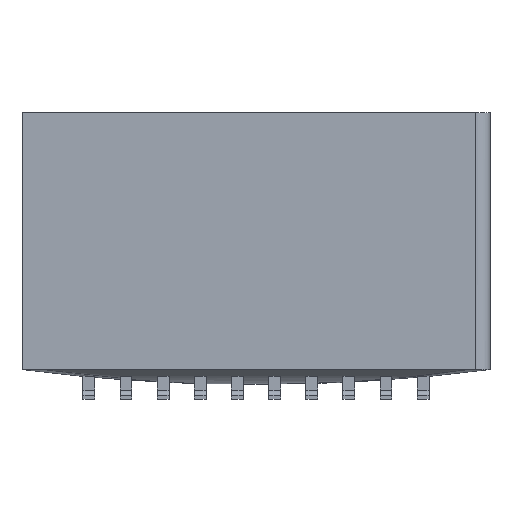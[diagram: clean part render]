
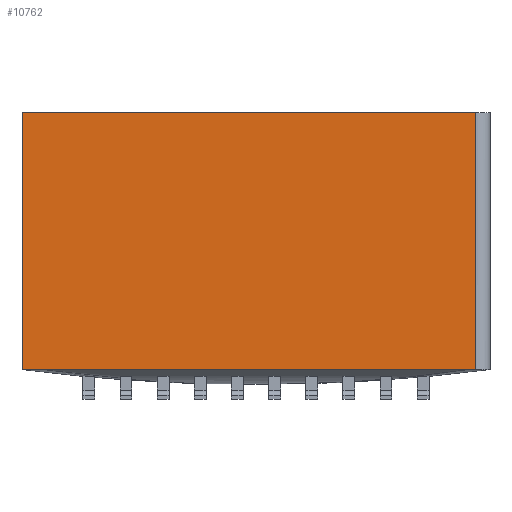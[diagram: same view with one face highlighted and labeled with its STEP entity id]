
A CAD part, front view. The second image highlights one B-rep face of the part: STEP entity #10762.
In plain terms, the highlighted planar face has unit normal (0, -1, 0).
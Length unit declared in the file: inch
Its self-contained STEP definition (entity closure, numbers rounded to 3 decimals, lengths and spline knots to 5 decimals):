
#161 = CARTESIAN_POINT ( 'NONE',  ( -0.4575, -0.035, 0.0865 ) ) ;
#716 = LINE ( 'NONE', #6966, #14805 ) ;
#1161 = CARTESIAN_POINT ( 'NONE',  ( -0.1575, -0.035, 0.0865 ) ) ;
#1295 = ORIENTED_EDGE ( 'NONE', *, *, #6921, .T. ) ;
#2075 = FACE_OUTER_BOUND ( 'NONE', #5576, .T. ) ;
#2550 = EDGE_CURVE ( 'NONE', #9041, #9564, #2553, .T. ) ;
#2553 = LINE ( 'NONE', #2871, #15827 ) ;
#2588 = ORIENTED_EDGE ( 'NONE', *, *, #4543, .F. ) ;
#2871 = CARTESIAN_POINT ( 'NONE',  ( -0.4575, -0.035, -0.0865 ) ) ;
#2982 = CARTESIAN_POINT ( 'NONE',  ( -0.1575, -0.035, -0.0865 ) ) ;
#3388 = DIRECTION ( 'NONE',  ( 0., -1., 0. ) ) ;
#3405 = DIRECTION ( 'NONE',  ( 0., 0., 1. ) ) ;
#3688 = CARTESIAN_POINT ( 'NONE',  ( 0.1475, -0.035, 0.0865 ) ) ;
#4543 = EDGE_CURVE ( 'NONE', #4563, #15704, #10114, .T. ) ;
#4563 = VERTEX_POINT ( 'NONE', #1161 ) ;
#5576 = EDGE_LOOP ( 'NONE', ( #11562, #15029, #1295, #2588 ) ) ;
#5837 = CARTESIAN_POINT ( 'NONE',  ( 0.1475, -0.035, -0.0865 ) ) ;
#5994 = AXIS2_PLACEMENT_3D ( 'NONE', #16604, #3388, #12652 ) ;
#6019 = PLANE ( 'NONE',  #5994 ) ;
#6921 = EDGE_CURVE ( 'NONE', #9041, #15704, #8598, .T. ) ;
#6966 = CARTESIAN_POINT ( 'NONE',  ( -0.1575, -0.035, -0.0865 ) ) ;
#8598 = LINE ( 'NONE', #11337, #11683 ) ;
#9041 = VERTEX_POINT ( 'NONE', #5837 ) ;
#9564 = VERTEX_POINT ( 'NONE', #2982 ) ;
#10114 = LINE ( 'NONE', #161, #13220 ) ;
#10762 = ADVANCED_FACE ( 'NONE', ( #2075 ), #6019, .T. ) ;
#11337 = CARTESIAN_POINT ( 'NONE',  ( 0.1475, -0.035, 0.0865 ) ) ;
#11562 = ORIENTED_EDGE ( 'NONE', *, *, #12567, .F. ) ;
#11683 = VECTOR ( 'NONE', #3405, 39.37008 ) ;
#12021 = DIRECTION ( 'NONE',  ( 1., 0., 0. ) ) ;
#12076 = DIRECTION ( 'NONE',  ( -1., 0., 0. ) ) ;
#12567 = EDGE_CURVE ( 'NONE', #9564, #4563, #716, .T. ) ;
#12652 = DIRECTION ( 'NONE',  ( 0., 0., -1. ) ) ;
#13220 = VECTOR ( 'NONE', #12021, 39.37008 ) ;
#14805 = VECTOR ( 'NONE', #14873, 39.37008 ) ;
#14873 = DIRECTION ( 'NONE',  ( 0., 0., 1. ) ) ;
#15029 = ORIENTED_EDGE ( 'NONE', *, *, #2550, .F. ) ;
#15704 = VERTEX_POINT ( 'NONE', #3688 ) ;
#15827 = VECTOR ( 'NONE', #12076, 39.37008 ) ;
#16604 = CARTESIAN_POINT ( 'NONE',  ( -0.4575, -0.035, -0.0865 ) ) ;
